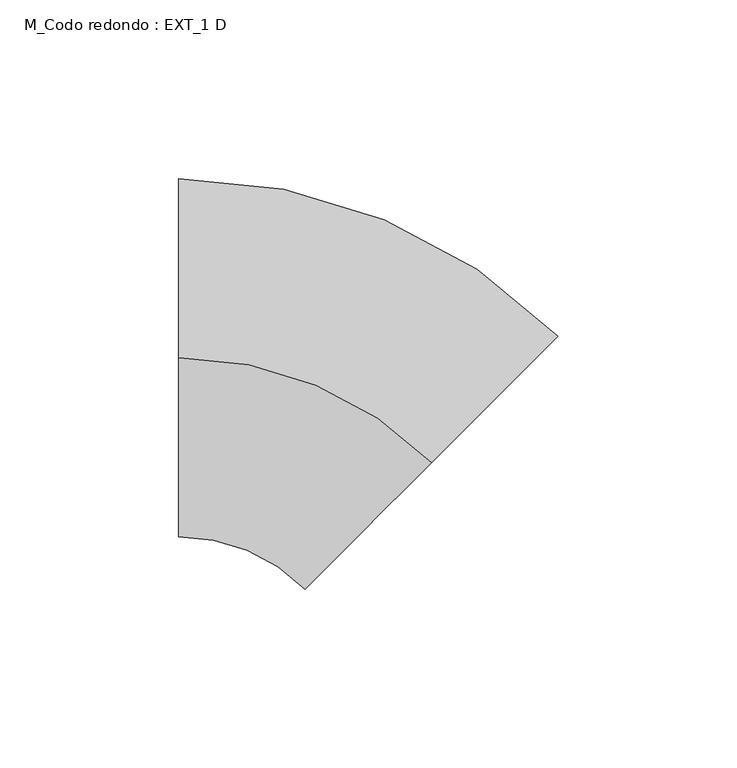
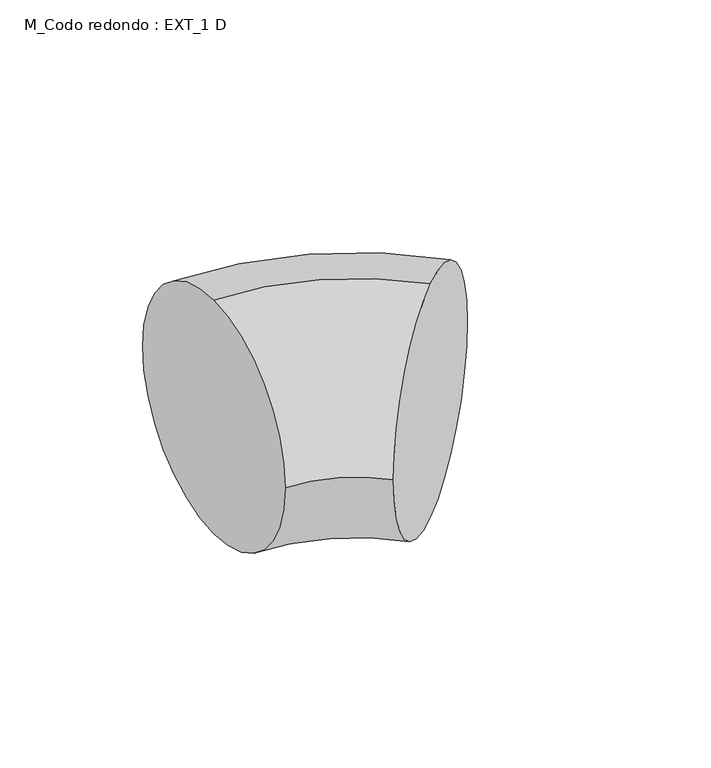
"""IFC4 building model written with IfcOpenShell, lengths in millimetres: duct fitting geometry, M_Codo redondo : EXT_1 D."""

from ifc_helpers import new_model, si_unit, point, frame, origin, place, context, project, spatial, circle_curve, ellipse_curve, trimmed, source, transform, mapped, element, save
from ifc_brep_helpers import plane_surface, revolved_surface, advanced_brep


def m_codo_redondo_ext_1_d_bb529a0e(model_context):
    return source(origin(), model_context, "Body", "AdvancedBrep", [
        advanced_brep(
        [(-41.4213562, 0.0, 50.0), (-41.4213562, 50.0, 0.0), (-41.4213562, 0.0, -50.0), (-41.4213562, -50.0, 0.0), (29.2893219, -29.2893219, 50.0), (-6.0660172, -64.6446609, 0.0), (29.2893219, -29.2893219, -50.0), (64.6446609, 6.0660172, 0.0)],
        [
            (0, 1, circle_curve(frame((-41.4213562, 0.0, 0.0), z_axis=(-1.0, 0.0, 0.0), x_axis=(0.0, -1.0, 0.0)), 50.0)),
            (1, 2, circle_curve(frame((-41.4213562, 0.0, 0.0), z_axis=(-1.0, 0.0, 0.0), x_axis=(0.0, -1.0, 0.0)), 50.0)),
            (2, 3, circle_curve(frame((-41.4213562, 0.0, 0.0), z_axis=(-1.0, 0.0, 0.0), x_axis=(0.0, -1.0, 0.0)), 50.0)),
            (3, 0, circle_curve(frame((-41.4213562, 0.0, 0.0), z_axis=(-1.0, 0.0, 0.0), x_axis=(0.0, -1.0, 0.0)), 50.0)),
            (4, 5, circle_curve(frame((29.2893219, -29.2893219, 0.0), z_axis=(0.7071067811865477, -0.7071067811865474, 0.0), x_axis=(-0.7071067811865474, -0.7071067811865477, 0.0)), 50.0)),
            (5, 6, circle_curve(frame((29.2893219, -29.2893219, 0.0), z_axis=(0.7071067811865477, -0.7071067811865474, 0.0), x_axis=(-0.7071067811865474, -0.7071067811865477, 0.0)), 50.0)),
            (6, 7, circle_curve(frame((29.2893219, -29.2893219, 0.0), z_axis=(0.7071067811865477, -0.7071067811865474, 0.0), x_axis=(-0.7071067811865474, -0.7071067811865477, 0.0)), 50.0)),
            (7, 4, circle_curve(frame((29.2893219, -29.2893219, 0.0), z_axis=(0.7071067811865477, -0.7071067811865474, 0.0), x_axis=(-0.7071067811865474, -0.7071067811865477, 0.0)), 50.0)),
            (4, 0, circle_curve(frame((-41.4213562, -100.0, 50.0), z_axis=(0.0, 0.0, 1.0), x_axis=(0.0, 1.0, 0.0)), 100.0)),
            (3, 5, circle_curve(frame((-41.4213562, -100.0, 0.0), z_axis=(0.0, 0.0, -1.0), x_axis=(0.0, 1.0, 0.0)), 50.0)),
            (2, 6, circle_curve(frame((-41.4213562, -100.0, -50.0), z_axis=(0.0, 0.0, -1.0), x_axis=(0.0, 1.0, 0.0)), 100.0)),
            (1, 7, circle_curve(frame((-41.4213562, -100.0, 0.0), z_axis=(0.0, 0.0, -1.0), x_axis=(0.0, 1.0, 0.0)), 150.0)),
        ],
        [
            plane_surface(frame((-41.4213562, 0.0, 0.0), z_axis=(-1.0, 0.0, 0.0), x_axis=(0.0, 0.0, 1.0))),
            plane_surface(frame((29.2893219, -29.2893219, 0.0), z_axis=(0.7071067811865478, -0.7071067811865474, 0.0), x_axis=(0.0, 0.0, 1.0))),
            revolved_surface(trimmed(ellipse_curve(frame((-41.4213562, 0.0, 0.0), z_axis=(1.0, 0.0, 0.0), x_axis=(0.0, -1.0, 0.0)), 50.0, 50.0), [point((-41.4213562, 0.0, 50.0))], [point((-41.4213562, -50.0, 0.0))], True, "CARTESIAN"), (-41.4213562, -100.0, 0.0), (0.0, 0.0, 1.0)),
            revolved_surface(trimmed(ellipse_curve(frame((-41.4213562, 0.0, 0.0), z_axis=(1.0, 0.0, 0.0), x_axis=(0.0, -1.0, 0.0)), 50.0, 50.0), [point((-41.4213562, -50.0, 0.0))], [point((-41.4213562, 0.0, -50.0))], True, "CARTESIAN"), (-41.4213562, -100.0, 0.0), (0.0, 0.0, 1.0)),
            revolved_surface(trimmed(ellipse_curve(frame((-41.4213562, 0.0, 0.0), z_axis=(1.0, 0.0, 0.0), x_axis=(0.0, -1.0, 0.0)), 50.0, 50.0), [point((-41.4213562, 0.0, -50.0))], [point((-41.4213562, 50.0, 0.0))], True, "CARTESIAN"), (-41.4213562, -100.0, 0.0), (0.0, 0.0, 1.0)),
            revolved_surface(trimmed(ellipse_curve(frame((-41.4213562, 0.0, 0.0), z_axis=(1.0, 0.0, 0.0), x_axis=(0.0, -1.0, 0.0)), 50.0, 50.0), [point((-41.4213562, 50.0, 0.0))], [point((-41.4213562, 0.0, 50.0))], True, "CARTESIAN"), (-41.4213562, -100.0, 0.0), (0.0, 0.0, 1.0)),
        ],
        [
            (0, [[1, 2, 3, 4]]),
            (1, [[5, 6, 7, 8]]),
            (2, [[-5, 9, -4, 10]]),
            (3, [[-6, -10, -3, 11]]),
            (4, [[-7, -11, -2, 12]]),
            (5, [[-8, -12, -1, -9]]),
        ],
    ),
    ])


if __name__ == "__main__":
    model = new_model("IFC4")
    model_context = context("Model", 3, world=origin())
    ifc_project = project(units=[si_unit("LENGTHUNIT", "METRE", prefix="MILLI")], contexts=[model_context])
    site = spatial("IfcSite", under=ifc_project)
    building = spatial("IfcBuilding", under=site)
    placement = place(None, origin())
    m_codo_redondo_ext_1_d_shape = m_codo_redondo_ext_1_d_bb529a0e(model_context)
    element("IfcDuctFitting", 1, ObjectType="M_Codo redondo : EXT_1 D", at=placement, inside=building, context=model_context, shape_type="MappedRepresentation", body=[
        mapped(m_codo_redondo_ext_1_d_shape, transform((0.0, 0.0, 0.0), x_axis=(1.0, 0.0, 0.0), y_axis=(0.0, 1.0, 0.0), z_axis=(0.0, 0.0, 1.0))),
    ])
    save(model, "model.ifc")
